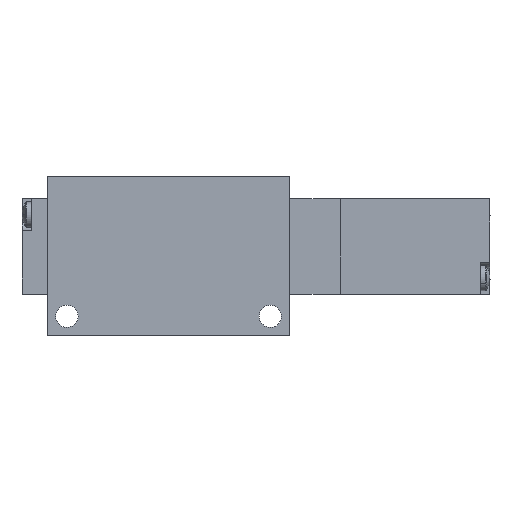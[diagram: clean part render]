
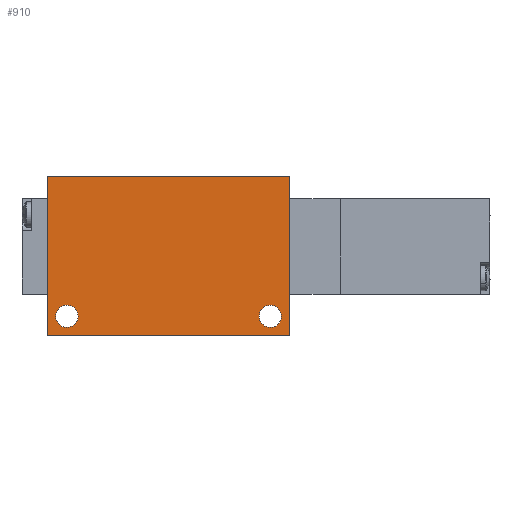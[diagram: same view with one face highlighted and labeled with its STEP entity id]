
A CAD part, front view. The second image highlights one B-rep face of the part: STEP entity #910.
In plain terms, the highlighted planar face has unit normal (0, -1, 0).
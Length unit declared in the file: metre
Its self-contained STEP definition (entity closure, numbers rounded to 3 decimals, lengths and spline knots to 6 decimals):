
#57 = DIRECTION ( 'NONE',  ( 0., 0., 1. ) ) ;
#77 = DIRECTION ( 'NONE',  ( 0., -1., 0. ) ) ;
#83 = VERTEX_POINT ( 'NONE', #6122 ) ;
#113 = AXIS2_PLACEMENT_3D ( 'NONE', #8631, #8649, #8673 ) ;
#222 = PLANE ( 'NONE',  #10525 ) ;
#275 = FACE_OUTER_BOUND ( 'NONE', #3406, .T. ) ;
#557 = CARTESIAN_POINT ( 'NONE',  ( -0.019, -0.0105, 0.011 ) ) ;
#705 = VECTOR ( 'NONE', #5019, 1. ) ;
#709 = AXIS2_PLACEMENT_3D ( 'NONE', #1061, #7206, #1977 ) ;
#711 = EDGE_LOOP ( 'NONE', ( #10500, #1526 ) ) ;
#910 = ADVANCED_FACE ( 'NONE', ( #5251, #2692, #275 ), #222, .T. ) ;
#1001 = CIRCLE ( 'NONE', #709, 0.00175 ) ;
#1036 = CARTESIAN_POINT ( 'NONE',  ( -0.016, -0.0105, -0.00925 ) ) ;
#1061 = CARTESIAN_POINT ( 'NONE',  ( -0.016, -0.0105, -0.011 ) ) ;
#1093 = EDGE_CURVE ( 'NONE', #6592, #83, #7449, .T. ) ;
#1326 = CIRCLE ( 'NONE', #113, 0.00175 ) ;
#1526 = ORIENTED_EDGE ( 'NONE', *, *, #10943, .T. ) ;
#1589 = VECTOR ( 'NONE', #1906, 1. ) ;
#1846 = ORIENTED_EDGE ( 'NONE', *, *, #3391, .F. ) ;
#1866 = EDGE_CURVE ( 'NONE', #5014, #5552, #10092, .T. ) ;
#1906 = DIRECTION ( 'NONE',  ( -1., 0., 0. ) ) ;
#1976 = ORIENTED_EDGE ( 'NONE', *, *, #8822, .T. ) ;
#1977 = DIRECTION ( 'NONE',  ( 0., 0., 1. ) ) ;
#1983 = CARTESIAN_POINT ( 'NONE',  ( -0.019, -0.0105, -0.014 ) ) ;
#2230 = EDGE_CURVE ( 'NONE', #83, #7460, #2685, .T. ) ;
#2362 = CARTESIAN_POINT ( 'NONE',  ( 0.016, -0.0105, -0.00925 ) ) ;
#2685 = LINE ( 'NONE', #2877, #5239 ) ;
#2692 = FACE_BOUND ( 'NONE', #8398, .T. ) ;
#2877 = CARTESIAN_POINT ( 'NONE',  ( 0.019, -0.0105, -0.0015 ) ) ;
#3192 = AXIS2_PLACEMENT_3D ( 'NONE', #7350, #7360, #7381 ) ;
#3319 = DIRECTION ( 'NONE',  ( 0., 0., -1. ) ) ;
#3391 = EDGE_CURVE ( 'NONE', #5853, #5282, #4701, .T. ) ;
#3406 = EDGE_LOOP ( 'NONE', ( #1976, #9245, #9859, #9888 ) ) ;
#3766 = DIRECTION ( 'NONE',  ( 0., 0., -1. ) ) ;
#3771 = ORIENTED_EDGE ( 'NONE', *, *, #5927, .F. ) ;
#3979 = CARTESIAN_POINT ( 'NONE',  ( -0.016, -0.0105, -0.01275 ) ) ;
#4701 = CIRCLE ( 'NONE', #9853, 0.00175 ) ;
#4746 = CARTESIAN_POINT ( 'NONE',  ( 0., -0.0105, -0.014 ) ) ;
#5014 = VERTEX_POINT ( 'NONE', #1036 ) ;
#5019 = DIRECTION ( 'NONE',  ( 1., 0., 0. ) ) ;
#5239 = VECTOR ( 'NONE', #57, 1. ) ;
#5251 = FACE_BOUND ( 'NONE', #711, .T. ) ;
#5282 = VERTEX_POINT ( 'NONE', #2362 ) ;
#5353 = VERTEX_POINT ( 'NONE', #557 ) ;
#5552 = VERTEX_POINT ( 'NONE', #3979 ) ;
#5853 = VERTEX_POINT ( 'NONE', #7654 ) ;
#5927 = EDGE_CURVE ( 'NONE', #5282, #5853, #1326, .T. ) ;
#5952 = VECTOR ( 'NONE', #3319, 1. ) ;
#6122 = CARTESIAN_POINT ( 'NONE',  ( 0.019, -0.0105, -0.014 ) ) ;
#6592 = VERTEX_POINT ( 'NONE', #1983 ) ;
#7206 = DIRECTION ( 'NONE',  ( 0., 1., 0. ) ) ;
#7350 = CARTESIAN_POINT ( 'NONE',  ( -0.016, -0.0105, -0.011 ) ) ;
#7360 = DIRECTION ( 'NONE',  ( 0., 1., 0. ) ) ;
#7381 = DIRECTION ( 'NONE',  ( 0., 0., 1. ) ) ;
#7449 = LINE ( 'NONE', #4746, #705 ) ;
#7460 = VERTEX_POINT ( 'NONE', #10158 ) ;
#7654 = CARTESIAN_POINT ( 'NONE',  ( 0.016, -0.0105, -0.01275 ) ) ;
#7699 = CARTESIAN_POINT ( 'NONE',  ( 0.016, -0.0105, -0.011 ) ) ;
#7722 = DIRECTION ( 'NONE',  ( 0., -1., 0. ) ) ;
#7739 = DIRECTION ( 'NONE',  ( 0., 0., 1. ) ) ;
#8009 = CARTESIAN_POINT ( 'NONE',  ( 0., -0.0105, 0.011 ) ) ;
#8398 = EDGE_LOOP ( 'NONE', ( #3771, #1846 ) ) ;
#8556 = LINE ( 'NONE', #9401, #5952 ) ;
#8631 = CARTESIAN_POINT ( 'NONE',  ( 0.016, -0.0105, -0.011 ) ) ;
#8649 = DIRECTION ( 'NONE',  ( 0., -1., 0. ) ) ;
#8673 = DIRECTION ( 'NONE',  ( 0., 0., 1. ) ) ;
#8822 = EDGE_CURVE ( 'NONE', #5353, #6592, #8556, .T. ) ;
#9245 = ORIENTED_EDGE ( 'NONE', *, *, #1093, .T. ) ;
#9401 = CARTESIAN_POINT ( 'NONE',  ( -0.019, -0.0105, -0.0015 ) ) ;
#9853 = AXIS2_PLACEMENT_3D ( 'NONE', #7699, #7722, #7739 ) ;
#9859 = ORIENTED_EDGE ( 'NONE', *, *, #2230, .T. ) ;
#9888 = ORIENTED_EDGE ( 'NONE', *, *, #10285, .T. ) ;
#10092 = CIRCLE ( 'NONE', #3192, 0.00175 ) ;
#10158 = CARTESIAN_POINT ( 'NONE',  ( 0.019, -0.0105, 0.011 ) ) ;
#10285 = EDGE_CURVE ( 'NONE', #7460, #5353, #10965, .T. ) ;
#10500 = ORIENTED_EDGE ( 'NONE', *, *, #1866, .T. ) ;
#10525 = AXIS2_PLACEMENT_3D ( 'NONE', #11286, #77, #3766 ) ;
#10943 = EDGE_CURVE ( 'NONE', #5552, #5014, #1001, .T. ) ;
#10965 = LINE ( 'NONE', #8009, #1589 ) ;
#11286 = CARTESIAN_POINT ( 'NONE',  ( -0.019, -0.0105, 0.011 ) ) ;
